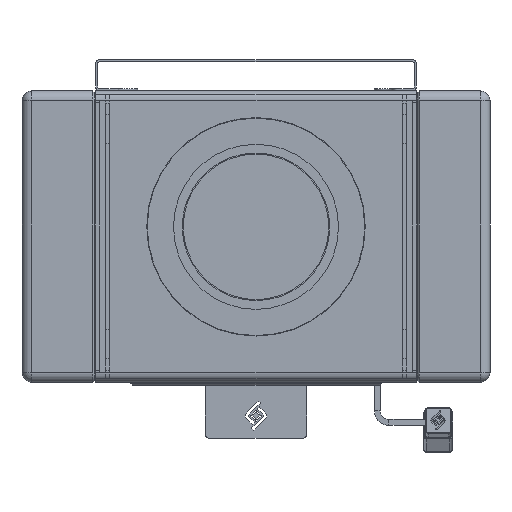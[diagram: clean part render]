
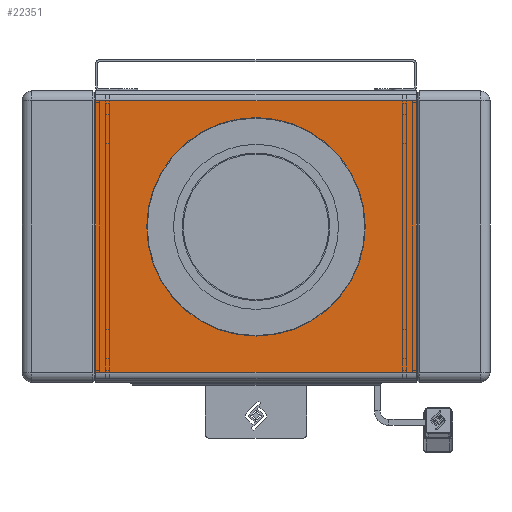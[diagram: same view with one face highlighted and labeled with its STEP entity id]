
A CAD part, front view. The second image highlights one B-rep face of the part: STEP entity #22351.
In plain terms, the highlighted planar face has unit normal (0, -1, 0) as drawn and (0, 0, 1) by its records, which use the part's own axes.
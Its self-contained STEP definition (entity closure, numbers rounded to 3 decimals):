
#741 = AXIS2_PLACEMENT_3D ( 'NONE', #40581, #59111, #60335 ) ;
#1196 = CARTESIAN_POINT ( 'NONE',  ( 0., -112.5, 1115.8 ) ) ;
#2431 = VERTEX_POINT ( 'NONE', #5140 ) ;
#3907 = DIRECTION ( 'NONE',  ( -1., 0., 0. ) ) ;
#4291 = FACE_BOUND ( 'NONE', #33085, .T. ) ;
#5140 = CARTESIAN_POINT ( 'NONE',  ( 165., -150., 1115.8 ) ) ;
#7226 = ORIENTED_EDGE ( 'NONE', *, *, #41605, .T. ) ;
#9307 = DIRECTION ( 'NONE',  ( 0., 1., 0. ) ) ;
#9647 = DIRECTION ( 'NONE',  ( -1., 0., 0. ) ) ;
#11921 = CARTESIAN_POINT ( 'NONE',  ( 165., 130., 1115.8 ) ) ;
#12270 = ORIENTED_EDGE ( 'NONE', *, *, #36915, .T. ) ;
#14294 = CARTESIAN_POINT ( 'NONE',  ( -165., 130., 1115.8 ) ) ;
#14913 = DIRECTION ( 'NONE',  ( 0., -1., 0. ) ) ;
#16127 = CARTESIAN_POINT ( 'NONE',  ( -165., 130., 1115.8 ) ) ;
#19024 = DIRECTION ( 'NONE',  ( 0., 0., -1. ) ) ;
#19623 = LINE ( 'NONE', #14294, #61381 ) ;
#20465 = VECTOR ( 'NONE', #9647, 1000. ) ;
#22351 = ADVANCED_FACE ( 'NONE', ( #4291, #23414 ), #52199, .F. ) ;
#22483 = VECTOR ( 'NONE', #46329, 1000. ) ;
#23414 = FACE_OUTER_BOUND ( 'NONE', #29404, .T. ) ;
#23440 = ORIENTED_EDGE ( 'NONE', *, *, #30235, .F. ) ;
#24330 = CARTESIAN_POINT ( 'NONE',  ( -165., -150., 1115.8 ) ) ;
#29404 = EDGE_LOOP ( 'NONE', ( #12270, #37601, #44801, #7226 ) ) ;
#29707 = VERTEX_POINT ( 'NONE', #1196 ) ;
#30235 = EDGE_CURVE ( 'NONE', #29707, #29707, #50773, .T. ) ;
#32668 = VERTEX_POINT ( 'NONE', #16127 ) ;
#33085 = EDGE_LOOP ( 'NONE', ( #23440 ) ) ;
#33647 = LINE ( 'NONE', #48049, #51634 ) ;
#36915 = EDGE_CURVE ( 'NONE', #32668, #55069, #19623, .T. ) ;
#37601 = ORIENTED_EDGE ( 'NONE', *, *, #42371, .F. ) ;
#40475 = CARTESIAN_POINT ( 'NONE',  ( 165., 130., 1115.8 ) ) ;
#40495 = VERTEX_POINT ( 'NONE', #40475 ) ;
#40581 = CARTESIAN_POINT ( 'NONE',  ( 0., 0., 1115.8 ) ) ;
#41605 = EDGE_CURVE ( 'NONE', #40495, #32668, #33647, .T. ) ;
#42371 = EDGE_CURVE ( 'NONE', #2431, #55069, #52216, .T. ) ;
#44801 = ORIENTED_EDGE ( 'NONE', *, *, #54485, .F. ) ;
#46329 = DIRECTION ( 'NONE',  ( 0., -1., 0. ) ) ;
#48049 = CARTESIAN_POINT ( 'NONE',  ( 165., 130., 1115.8 ) ) ;
#48433 = CARTESIAN_POINT ( 'NONE',  ( 165., -150., 1115.8 ) ) ;
#50773 = CIRCLE ( 'NONE', #741, 112.5 ) ;
#51634 = VECTOR ( 'NONE', #3907, 1000. ) ;
#52199 = PLANE ( 'NONE',  #54774 ) ;
#52216 = LINE ( 'NONE', #48433, #20465 ) ;
#54485 = EDGE_CURVE ( 'NONE', #40495, #2431, #60769, .T. ) ;
#54774 = AXIS2_PLACEMENT_3D ( 'NONE', #61947, #19024, #9307 ) ;
#55069 = VERTEX_POINT ( 'NONE', #24330 ) ;
#59111 = DIRECTION ( 'NONE',  ( 0., 0., 1. ) ) ;
#60335 = DIRECTION ( 'NONE',  ( 0., -1., 0. ) ) ;
#60769 = LINE ( 'NONE', #11921, #22483 ) ;
#61381 = VECTOR ( 'NONE', #14913, 1000. ) ;
#61947 = CARTESIAN_POINT ( 'NONE',  ( 165., 130., 1115.8 ) ) ;
